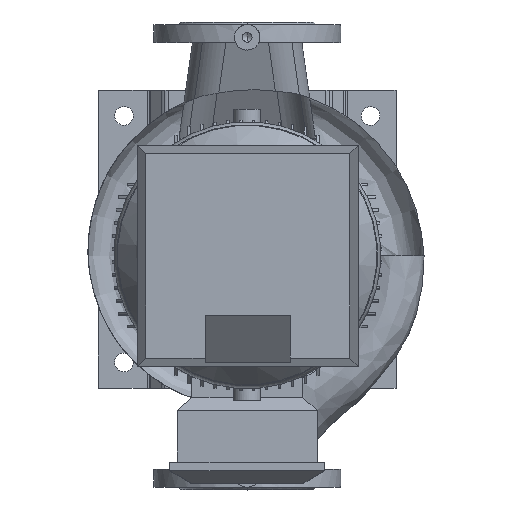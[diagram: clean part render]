
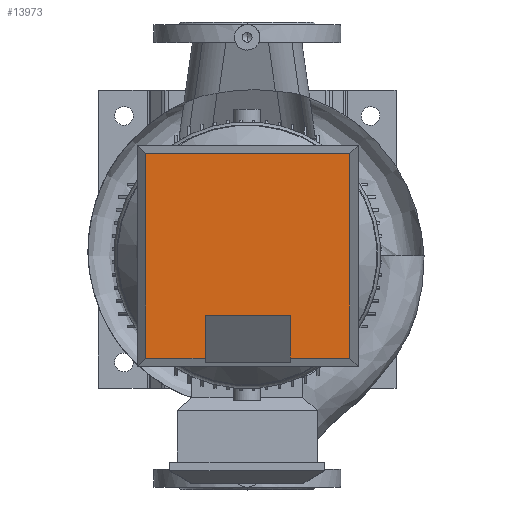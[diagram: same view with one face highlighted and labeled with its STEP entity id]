
A CAD part, top view. The second image highlights one B-rep face of the part: STEP entity #13973.
In plain terms, the highlighted planar face has unit normal (0, 0, 1) as drawn and (0, 1, 0) by its records, which use the part's own axes.
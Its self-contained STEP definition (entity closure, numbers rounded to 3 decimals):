
#13973=ADVANCED_FACE('',(#27515),#27516,.T.);
#13983=EDGE_CURVE('',#27531,#27528,#27532,.T.);
#27515=FACE_OUTER_BOUND('',#48744,.T.);
#27516=PLANE('',#48745);
#27528=VERTEX_POINT('',#48758);
#27531=VERTEX_POINT('',#48763);
#27532=LINE('',#48764,#48765);
#48744=EDGE_LOOP('',(#69109,#69110,#69111,#69112,#69113,#69114,#69115,#69116));
#48745=AXIS2_PLACEMENT_3D('',#69117,#69118,#69119);
#48758=CARTESIAN_POINT('',(-50.0,90.0,199.485));
#48763=CARTESIAN_POINT('',(-50.0,90.0,250.0));
#48764=CARTESIAN_POINT('',(-50.0,90.0,127.834));
#48765=VECTOR('',#69145,1.0);
#69109=ORIENTED_EDGE('',*,*,#73331,.T.);
#69110=ORIENTED_EDGE('',*,*,#73337,.F.);
#69111=ORIENTED_EDGE('',*,*,#73345,.F.);
#69112=ORIENTED_EDGE('',*,*,#73347,.F.);
#69113=ORIENTED_EDGE('',*,*,#73339,.F.);
#69114=ORIENTED_EDGE('',*,*,#73333,.F.);
#69115=ORIENTED_EDGE('',*,*,#13983,.T.);
#69116=ORIENTED_EDGE('',*,*,#73327,.T.);
#69117=CARTESIAN_POINT('',(0.0,90.0,0.0));
#69118=DIRECTION('',(0.0,1.0,-0.0));
#69119=DIRECTION('',(-1.0,0.0,0.0));
#69145=DIRECTION('',(0.0,-0.0,-1.0));
#73327=EDGE_CURVE('',#27528,#78992,#78995,.T.);
#73331=EDGE_CURVE('',#78992,#78998,#79000,.T.);
#73333=EDGE_CURVE('',#27531,#79002,#79003,.T.);
#73337=EDGE_CURVE('',#79008,#78998,#79010,.T.);
#73339=EDGE_CURVE('',#79002,#79012,#79013,.T.);
#73345=EDGE_CURVE('',#79018,#79008,#79020,.T.);
#73347=EDGE_CURVE('',#79012,#79018,#79022,.T.);
#78992=VERTEX_POINT('',#91831);
#78995=LINE('',#91835,#91836);
#78998=VERTEX_POINT('',#91840);
#79000=LINE('',#91843,#91844);
#79002=VERTEX_POINT('',#91846);
#79003=LINE('',#91847,#91848);
#79008=VERTEX_POINT('',#91855);
#79010=LINE('',#91858,#91859);
#79012=VERTEX_POINT('',#91861);
#79013=LINE('',#91862,#91863);
#79018=VERTEX_POINT('',#91871);
#79020=LINE('',#91874,#91875);
#79022=LINE('',#91877,#91878);
#91831=CARTESIAN_POINT('',(50.0,90.0,199.485));
#91835=CARTESIAN_POINT('',(-25.0,90.0,199.485));
#91836=VECTOR('',#95358,1.0);
#91840=CARTESIAN_POINT('',(50.0,90.0,250.0));
#91843=CARTESIAN_POINT('',(50.0,90.0,127.834));
#91844=VECTOR('',#95361,1.0);
#91846=CARTESIAN_POINT('',(-120.0,90.0,250.0));
#91847=CARTESIAN_POINT('',(65.0,90.0,250.0));
#91848=VECTOR('',#95362,1.0);
#91855=CARTESIAN_POINT('',(120.0,90.0,250.0));
#91858=CARTESIAN_POINT('',(65.0,90.0,250.0));
#91859=VECTOR('',#95366,1.0);
#91861=CARTESIAN_POINT('',(-120.0,90.0,10.0));
#91862=CARTESIAN_POINT('',(-120.0,90.0,0.0));
#91863=VECTOR('',#95367,1.0);
#91871=CARTESIAN_POINT('',(120.0,90.0,10.0));
#91874=CARTESIAN_POINT('',(120.0,90.0,0.0));
#91875=VECTOR('',#95372,1.0);
#91877=CARTESIAN_POINT('',(65.0,90.0,10.0));
#91878=VECTOR('',#95373,1.0);
#95358=DIRECTION('',(1.0,0.0,0.0));
#95361=DIRECTION('',(-0.0,0.0,1.0));
#95362=DIRECTION('',(-1.0,0.0,-0.0));
#95366=DIRECTION('',(-1.0,0.0,-0.0));
#95367=DIRECTION('',(-0.0,-0.0,-1.0));
#95372=DIRECTION('',(-0.0,0.0,1.0));
#95373=DIRECTION('',(1.0,-0.0,-0.0));
